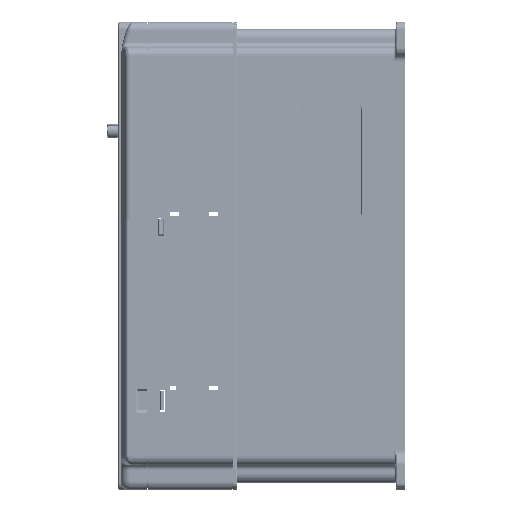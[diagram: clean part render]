
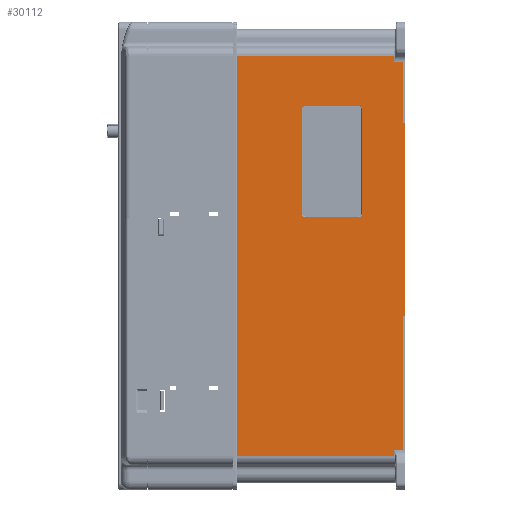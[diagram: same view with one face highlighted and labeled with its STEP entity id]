
A CAD part, left-side view. The second image highlights one B-rep face of the part: STEP entity #30112.
In plain terms, the highlighted planar face has unit normal (-1, 0, 0).
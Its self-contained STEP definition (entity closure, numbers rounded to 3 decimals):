
#2=CARTESIAN_POINT('',(-80.,-63.,29.));
#3=DIRECTION('',(1.,0.,0.));
#4=DIRECTION('',(0.,-1.,0.));
#5=AXIS2_PLACEMENT_3D('',#2,#3,#4);
#7=DIRECTION('',(0.,0.,-1.));
#8=VECTOR('',#7,71.4);
#9=CARTESIAN_POINT('',(-80.,-65.458,100.4));
#10=LINE('',#9,#8);
#11=CARTESIAN_POINT('',(-80.,-63.,100.4));
#12=DIRECTION('',(1.,0.,0.));
#13=DIRECTION('',(0.,0.,1.));
#14=AXIS2_PLACEMENT_3D('',#11,#12,#13);
#16=DIRECTION('',(0.,-1.,0.));
#17=VECTOR('',#16,36.4);
#18=CARTESIAN_POINT('',(-80.,-26.6,102.858));
#19=LINE('',#18,#17);
#20=CARTESIAN_POINT('',(-80.,-26.6,100.4));
#21=DIRECTION('',(1.,0.,0.));
#22=DIRECTION('',(0.,1.,0.));
#23=AXIS2_PLACEMENT_3D('',#20,#21,#22);
#25=DIRECTION('',(0.,0.,1.));
#26=VECTOR('',#25,71.4);
#27=CARTESIAN_POINT('',(-80.,-24.142,29.));
#28=LINE('',#27,#26);
#29=CARTESIAN_POINT('',(-80.,-26.6,29.));
#30=DIRECTION('',(1.,0.,0.));
#31=DIRECTION('',(0.,0.,-1.));
#32=AXIS2_PLACEMENT_3D('',#29,#30,#31);
#34=DIRECTION('',(0.,1.,0.));
#35=VECTOR('',#34,36.4);
#36=CARTESIAN_POINT('',(-80.,-63.,26.542));
#37=LINE('',#36,#35);
#38=DIRECTION('',(0.,0.,-1.));
#39=VECTOR('',#38,4.071);
#40=CARTESIAN_POINT('',(-80.,-87.5,137.));
#41=LINE('',#40,#39);
#42=DIRECTION('',(0.,0.,1.));
#43=VECTOR('',#42,42.129);
#44=CARTESIAN_POINT('',(-80.,-93.5,90.8));
#45=LINE('',#44,#43);
#46=DIRECTION('',(0.,1.,0.));
#47=VECTOR('',#46,1.5);
#48=CARTESIAN_POINT('',(-80.,-95.,90.8));
#49=LINE('',#48,#47);
#50=DIRECTION('',(0.,1.,0.));
#51=VECTOR('',#50,1.5);
#52=CARTESIAN_POINT('',(-80.,-95.,-40.8));
#53=LINE('',#52,#51);
#54=DIRECTION('',(0.,0.,1.));
#55=VECTOR('',#54,92.129);
#56=CARTESIAN_POINT('',(-80.,-93.5,-132.929));
#57=LINE('',#56,#55);
#58=DIRECTION('',(0.,0.,-1.));
#59=VECTOR('',#58,4.071);
#60=CARTESIAN_POINT('',(-80.,-87.5,-132.929));
#61=LINE('',#60,#59);
#62=DIRECTION('',(0.,-1.,0.));
#63=VECTOR('',#62,107.5);
#64=CARTESIAN_POINT('',(-80.,20.,-137.));
#65=LINE('',#64,#63);
#66=DIRECTION('',(0.,0.,1.));
#67=VECTOR('',#66,274.);
#68=CARTESIAN_POINT('',(-80.,20.,-137.));
#69=LINE('',#68,#67);
#70=DIRECTION('',(0.,-1.,0.));
#71=VECTOR('',#70,107.5);
#72=CARTESIAN_POINT('',(-80.,20.,137.));
#73=LINE('',#72,#71);
#20720=DIRECTION('',(0.,-1.,0.));
#20721=VECTOR('',#20720,6.);
#20722=CARTESIAN_POINT('',(-80.,-87.5,
-132.929));
#20723=LINE('',#20722,#20721);
#21145=DIRECTION('',(0.,0.,1.));
#21146=VECTOR('',#21145,131.6);
#21147=CARTESIAN_POINT('',(-80.,-95.,-40.8));
#21148=LINE('',#21147,#21146);
#23695=DIRECTION('',(0.,1.,0.));
#23696=VECTOR('',#23695,6.);
#23697=CARTESIAN_POINT('',(-80.,-93.5,132.929));
#23698=LINE('',#23697,#23696);
#24171=CARTESIAN_POINT('',(-80.,-93.5,-132.929));
#24172=CARTESIAN_POINT('',(-80.,-93.5,-40.8));
#24173=VERTEX_POINT('',#24171);
#24174=VERTEX_POINT('',#24172);
#24175=CARTESIAN_POINT('',(-80.,-93.5,90.8));
#24176=CARTESIAN_POINT('',(-80.,-93.5,132.929));
#24177=VERTEX_POINT('',#24175);
#24178=VERTEX_POINT('',#24176);
#25377=CARTESIAN_POINT('',(-80.,-95.,-40.8));
#25378=VERTEX_POINT('',#25377);
#25381=CARTESIAN_POINT('',(-80.,-95.,90.8));
#25382=VERTEX_POINT('',#25381);
#26566=CARTESIAN_POINT('',(-80.,-87.5,137.));
#26567=CARTESIAN_POINT('',(-80.,-87.5,132.929));
#26568=VERTEX_POINT('',#26566);
#26569=VERTEX_POINT('',#26567);
#26939=CARTESIAN_POINT('',(-80.,-65.458,29.));
#26940=CARTESIAN_POINT('',(-80.,-63.,26.542));
#26941=VERTEX_POINT('',#26939);
#26942=VERTEX_POINT('',#26940);
#26947=CARTESIAN_POINT('',(-80.,-26.6,26.542));
#26948=VERTEX_POINT('',#26947);
#26951=CARTESIAN_POINT('',(-80.,-24.142,29.));
#26952=VERTEX_POINT('',#26951);
#26955=CARTESIAN_POINT('',(-80.,-24.142,100.4));
#26956=VERTEX_POINT('',#26955);
#26959=CARTESIAN_POINT('',(-80.,-26.6,102.858));
#26960=VERTEX_POINT('',#26959);
#26963=CARTESIAN_POINT('',(-80.,-63.,102.858));
#26964=VERTEX_POINT('',#26963);
#26967=CARTESIAN_POINT('',(-80.,-65.458,100.4));
#26968=VERTEX_POINT('',#26967);
#27540=CARTESIAN_POINT('',(-80.,-87.5,
-132.929));
#27541=VERTEX_POINT('',#27540);
#29039=CARTESIAN_POINT('',(-80.,20.,-137.));
#29040=CARTESIAN_POINT('',(-80.,20.,137.));
#29041=VERTEX_POINT('',#29039);
#29042=VERTEX_POINT('',#29040);
#29137=CARTESIAN_POINT('',(-80.,-87.5,-137.));
#29138=VERTEX_POINT('',#29137);
#30063=CARTESIAN_POINT('',(-80.,-95.,-155.));
#30064=DIRECTION('',(-1.,0.,0.));
#30065=DIRECTION('',(0.,0.,1.));
#30066=AXIS2_PLACEMENT_3D('',#30063,#30064,#30065);
#30067=PLANE('',#30066);
#30069=ORIENTED_EDGE('',*,*,#30068,.T.);
#30071=ORIENTED_EDGE('',*,*,#30070,.F.);
#30073=ORIENTED_EDGE('',*,*,#30072,.F.);
#30075=ORIENTED_EDGE('',*,*,#30074,.F.);
#30077=ORIENTED_EDGE('',*,*,#30076,.F.);
#30079=ORIENTED_EDGE('',*,*,#30078,.T.);
#30081=ORIENTED_EDGE('',*,*,#30080,.F.);
#30083=ORIENTED_EDGE('',*,*,#30082,.F.);
#30085=ORIENTED_EDGE('',*,*,#30084,.T.);
#30087=ORIENTED_EDGE('',*,*,#30086,.F.);
#30089=ORIENTED_EDGE('',*,*,#30088,.T.);
#30091=ORIENTED_EDGE('',*,*,#30090,.T.);
#30092=EDGE_LOOP('',(#30069,#30071,#30073,#30075,#30077,#30079,#30081,#30083,
#30085,#30087,#30089,#30091));
#30093=FACE_OUTER_BOUND('',#30092,.F.);
#30095=ORIENTED_EDGE('',*,*,#30094,.F.);
#30097=ORIENTED_EDGE('',*,*,#30096,.F.);
#30099=ORIENTED_EDGE('',*,*,#30098,.F.);
#30101=ORIENTED_EDGE('',*,*,#30100,.F.);
#30103=ORIENTED_EDGE('',*,*,#30102,.F.);
#30105=ORIENTED_EDGE('',*,*,#30104,.F.);
#30107=ORIENTED_EDGE('',*,*,#30106,.F.);
#30109=ORIENTED_EDGE('',*,*,#30108,.F.);
#30110=EDGE_LOOP('',(#30095,#30097,#30099,#30101,#30103,#30105,#30107,#30109));
#30111=FACE_BOUND('',#30110,.F.);
#6=CIRCLE('',#5,2.458);
#15=CIRCLE('',#14,2.458);
#24=CIRCLE('',#23,2.458);
#33=CIRCLE('',#32,2.458);
#30068=EDGE_CURVE('',#26568,#26569,#41,.T.);
#30070=EDGE_CURVE('',#24178,#26569,#23698,.T.);
#30072=EDGE_CURVE('',#24177,#24178,#45,.T.);
#30074=EDGE_CURVE('',#25382,#24177,#49,.T.);
#30076=EDGE_CURVE('',#25378,#25382,#21148,.T.);
#30078=EDGE_CURVE('',#25378,#24174,#53,.T.);
#30080=EDGE_CURVE('',#24173,#24174,#57,.T.);
#30082=EDGE_CURVE('',#27541,#24173,#20723,.T.);
#30084=EDGE_CURVE('',#27541,#29138,#61,.T.);
#30086=EDGE_CURVE('',#29041,#29138,#65,.T.);
#30088=EDGE_CURVE('',#29041,#29042,#69,.T.);
#30090=EDGE_CURVE('',#29042,#26568,#73,.T.);
#30094=EDGE_CURVE('',#26941,#26942,#6,.T.);
#30096=EDGE_CURVE('',#26968,#26941,#10,.T.);
#30098=EDGE_CURVE('',#26964,#26968,#15,.T.);
#30100=EDGE_CURVE('',#26960,#26964,#19,.T.);
#30102=EDGE_CURVE('',#26956,#26960,#24,.T.);
#30104=EDGE_CURVE('',#26952,#26956,#28,.T.);
#30106=EDGE_CURVE('',#26948,#26952,#33,.T.);
#30108=EDGE_CURVE('',#26942,#26948,#37,.T.);
#30112=ADVANCED_FACE('',(#30093,#30111),#30067,.T.);
